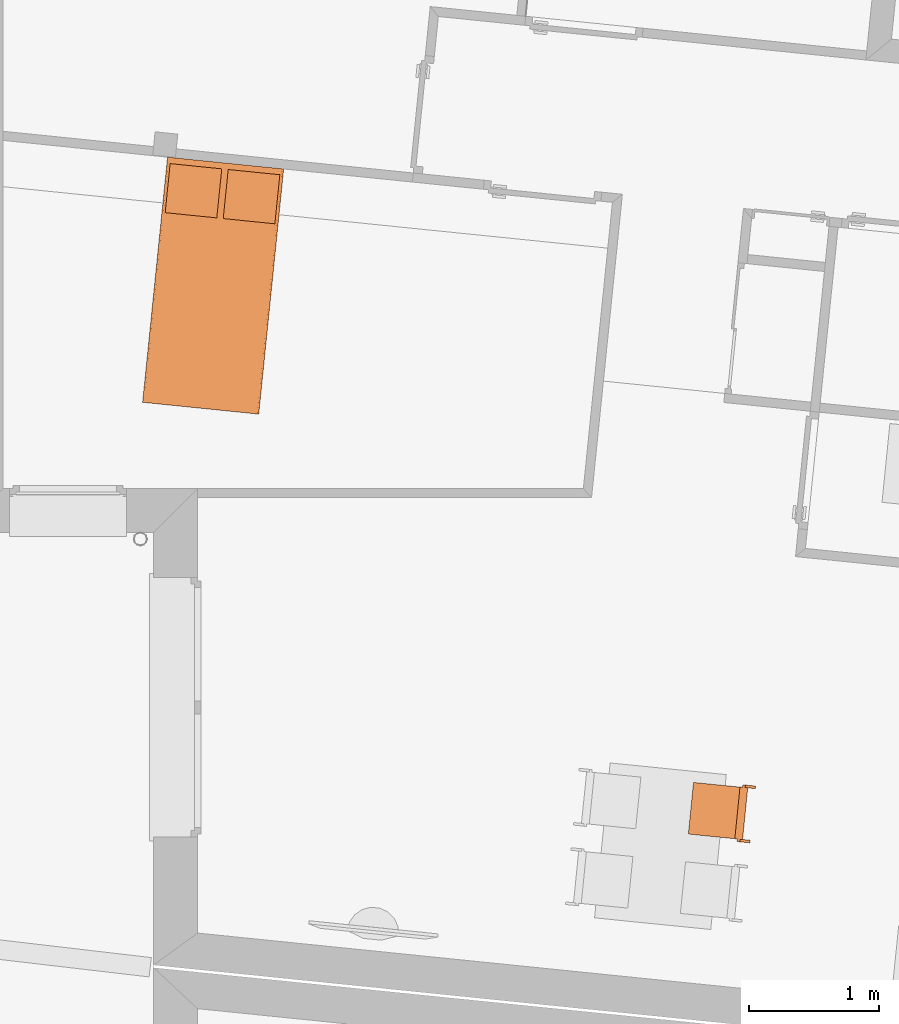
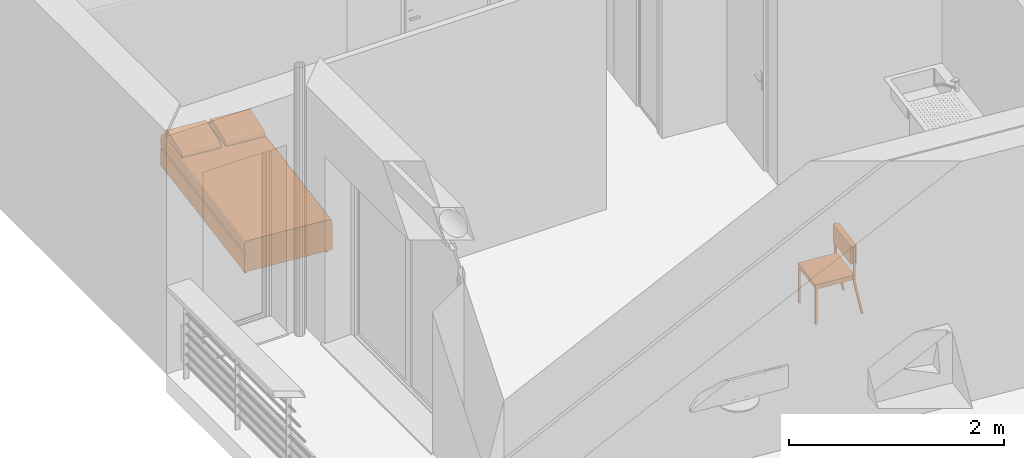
# One storey, part 153 of 164: 2 proxies.
"""IFC2X3 building model written with IfcOpenShell, lengths in millimetres."""

from ifc_helpers import new_model, entity, si_unit, converted_unit, derived_unit, money_unit, direction, frame, origin_with_axes, place, context, subcontext, project, spatial, open_shell, faceted_brep, surface_model, source, transform, mapped, type_object, element, save


model = new_model("IFC2X3")

# Units and contexts
model_context = context("Model", 3, precision=0.01, world=origin_with_axes(), true_north=direction((0.0, 1.0)))
body_context = subcontext(model_context, "Body", "Model", "MODEL_VIEW")
ifc_project = project(units=[si_unit("LENGTHUNIT", "METRE", prefix="MILLI"), si_unit("AREAUNIT", "SQUARE_METRE"), si_unit("VOLUMEUNIT", "CUBIC_METRE"), converted_unit("PLANEANGLEUNIT", "DEGREE", entity("IfcPlaneAngleMeasure", 0.0174532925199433), si_unit("PLANEANGLEUNIT", "RADIAN"), dimensions=[0, 0, 0, 0, 0, 0, 0]), money_unit("USD"), converted_unit("TIMEUNIT", "Year", entity("IfcTimeMeasure", 31557600.0), si_unit("TIMEUNIT", "SECOND"), dimensions=[0, 0, 1, 0, 0, 0, 0]), si_unit("MASSUNIT", "GRAM", prefix="KILO"), si_unit("THERMODYNAMICTEMPERATUREUNIT", "DEGREE_CELSIUS"), si_unit("LUMINOUSINTENSITYUNIT", "LUMEN"), si_unit("ENERGYUNIT", "JOULE", prefix="MEGA"), derived_unit("THERMALCONDUCTANCEUNIT", [(si_unit("POWERUNIT", "WATT"), 1), (si_unit("LENGTHUNIT", "METRE"), -1), (si_unit("THERMODYNAMICTEMPERATUREUNIT", "KELVIN"), -1)]), derived_unit("SPECIFICHEATCAPACITYUNIT", [(si_unit("ENERGYUNIT", "JOULE"), 1), (si_unit("MASSUNIT", "GRAM", prefix="KILO"), -1), (si_unit("THERMODYNAMICTEMPERATUREUNIT", "KELVIN"), -1)]), derived_unit("MASSDENSITYUNIT", [(si_unit("MASSUNIT", "GRAM", prefix="KILO"), 1), (si_unit("VOLUMEUNIT", "CUBIC_METRE"), -1)])], contexts=[model_context])

# Site, building, storey
site_placement = place(None, origin_with_axes())
site = spatial("IfcSite", under=ifc_project, at=site_placement, Name="Site", CompositionType="ELEMENT")
building_placement = place(site_placement, origin_with_axes())
building = spatial("IfcBuilding", under=site, at=building_placement, Name="Bâtiment", CompositionType="ELEMENT")
storey_placement = place(building_placement, frame((0.0, 0.0, 5750.0), z_axis=(0.0, 0.0, 1.0), x_axis=(1.0, 0.0, 0.0)))
storey = spatial("IfcBuildingStorey", under=building, at=storey_placement, Name="Etage1", CompositionType="ELEMENT", Elevation=5750.0)

# Proxies
building_element_proxy_type = type_object("IfcBuildingElementProxyType", PredefinedType="NOTDEFINED")
shared_shape_1 = source(origin_with_axes(), body_context, "Body", "Brep", [
    faceted_brep([(-39.99999978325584, 0.0, 0.0), (-39.99999978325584, 19.99999936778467, 0.0), (-19.99999989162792, 19.99999936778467, 0.0), (-19.99999989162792, 0.0, 0.0), (-39.99999978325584, 0.0, 400.0), (-39.99999978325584, 19.99999936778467, 400.0), (-19.99999989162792, 19.99999936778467, 400.0), (-19.99999989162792, 0.0, 400.0)], [[[0, 1, 2, 3]], [[0, 4, 5, 1]], [[1, 5, 6, 2]], [[2, 6, 7, 3]], [[3, 7, 4, 0]], [[7, 6, 5, 4]]]),
    faceted_brep([(-419.9999977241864, 0.0, 0.0), (-419.9999977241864, 19.99999936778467, 0.0), (-399.9999978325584, 19.99999936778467, 0.0), (-399.9999978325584, 0.0, 0.0), (-419.9999977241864, 0.0, 400.0), (-419.9999977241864, 19.99999936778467, 400.0), (-399.9999978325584, 19.99999936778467, 400.0), (-399.9999978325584, 0.0, 400.0)], [[[0, 1, 2, 3]], [[0, 4, 5, 1]], [[1, 5, 6, 2]], [[2, 6, 7, 3]], [[3, 7, 4, 0]], [[7, 6, 5, 4]]]),
    faceted_brep([(-399.9999978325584, 0.0, 400.0000000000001), (-399.9999978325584, 19.99999936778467, 400.0000000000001), (-39.99999978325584, 19.99999936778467, 400.0000000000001), (-39.99999978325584, 0.0, 400.0000000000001), (-399.9999978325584, 0.0, 420.0000000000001), (-399.9999978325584, 19.99999936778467, 420.0000000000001), (-39.99999978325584, 19.99999936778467, 420.0000000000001), (-39.99999978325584, 0.0, 420.0000000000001)], [[[0, 1, 2, 3]], [[0, 4, 5, 1]], [[1, 5, 6, 2]], [[2, 6, 7, 3]], [[3, 7, 4, 0]], [[7, 6, 5, 4]]]),
    faceted_brep([(-39.99999978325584, 19.99999936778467, 400.0000000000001), (-39.99999978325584, 379.9999879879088, 400.0000000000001), (-19.99999989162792, 379.9999879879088, 400.0000000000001), (-19.99999989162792, 19.99999936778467, 400.0000000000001), (-39.99999978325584, 19.99999936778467, 420.0000000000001), (-39.99999978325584, 379.9999879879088, 420.0000000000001), (-19.99999989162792, 379.9999879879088, 420.0000000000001), (-19.99999989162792, 19.99999936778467, 420.0000000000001)], [[[0, 1, 2, 3]], [[0, 4, 5, 1]], [[1, 5, 6, 2]], [[2, 6, 7, 3]], [[3, 7, 4, 0]], [[7, 6, 5, 4]]]),
    faceted_brep([(-419.9999977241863, 379.9999879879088, 400.0000000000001), (-419.9999977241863, 399.9999873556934, 400.0000000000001), (-19.99999989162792, 399.9999873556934, 400.0000000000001), (-19.99999989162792, 379.9999879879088, 400.0000000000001), (-419.9999977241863, 379.9999879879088, 420.0000000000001), (-419.9999977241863, 399.9999873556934, 420.0000000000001), (-19.99999989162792, 399.9999873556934, 420.0000000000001), (-19.99999989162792, 379.9999879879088, 420.0000000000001)], [[[0, 1, 2, 3]], [[0, 4, 5, 1]], [[1, 5, 6, 2]], [[2, 6, 7, 3]], [[3, 7, 4, 0]], [[7, 6, 5, 4]]]),
    faceted_brep([(-419.9999977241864, 19.99999936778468, 400.0000000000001), (-419.9999977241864, 379.9999879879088, 400.0000000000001), (-399.9999978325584, 379.9999879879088, 400.0000000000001), (-399.9999978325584, 19.99999936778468, 400.0000000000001), (-419.9999977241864, 19.99999936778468, 420.0000000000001), (-419.9999977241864, 379.9999879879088, 420.0000000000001), (-399.9999978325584, 379.9999879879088, 420.0000000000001), (-399.9999978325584, 19.99999936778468, 420.0000000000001)], [[[0, 1, 2, 3]], [[0, 4, 5, 1]], [[1, 5, 6, 2]], [[2, 6, 7, 3]], [[3, 7, 4, 0]], [[7, 6, 5, 4]]]),
    faceted_brep([(-419.9999977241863, 0.0, 400.0), (-419.9999977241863, 399.9999873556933, 400.0), (-19.99999989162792, 399.9999873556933, 400.0), (-19.99999989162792, 0.0, 400.0), (-419.9999977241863, 0.0, 450.0), (-419.9999977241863, 399.9999873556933, 450.0), (-19.99999989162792, 399.9999873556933, 450.0), (-19.99999989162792, 0.0, 450.0)], [[[0, 1, 2, 3]], [[0, 4, 5, 1]], [[1, 5, 6, 2]], [[2, 6, 7, 3]], [[3, 7, 4, 0]], [[7, 6, 5, 4]]]),
    faceted_brep([(-19.99999989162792, 379.9999879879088, 380.0), (-19.99999989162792, 399.9999873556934, 380.0), (0.0, 399.9999873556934, 380.0), (0.0, 379.9999879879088, 380.0), (-19.99999989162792, 379.9999879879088, 780.0), (-19.99999989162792, 399.9999873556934, 780.0), (0.0, 399.9999873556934, 780.0), (0.0, 379.9999879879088, 780.0)], [[[0, 1, 2, 3]], [[0, 4, 5, 1]], [[1, 5, 6, 2]], [[2, 6, 7, 3]], [[3, 7, 4, 0]], [[7, 6, 5, 4]]]),
    faceted_brep([(-439.9999976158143, 379.9999879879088, 380.0), (-439.9999976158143, 399.9999873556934, 380.0), (-419.9999977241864, 399.9999873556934, 380.0), (-419.9999977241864, 379.9999879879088, 380.0), (-439.9999976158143, 379.9999879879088, 780.0), (-439.9999976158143, 399.9999873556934, 780.0), (-419.9999977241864, 399.9999873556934, 780.0), (-419.9999977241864, 379.9999879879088, 780.0)], [[[0, 1, 2, 3]], [[0, 4, 5, 1]], [[1, 5, 6, 2]], [[2, 6, 7, 3]], [[3, 7, 4, 0]], [[7, 6, 5, 4]]]),
    faceted_brep([(-419.9999977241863, 359.999988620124, 580.0000000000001), (-419.9999977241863, 419.9999867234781, 580.0000000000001), (-19.99999989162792, 419.9999867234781, 580.0000000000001), (-19.99999989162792, 359.999988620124, 580.0000000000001), (-419.9999977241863, 359.999988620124, 780.0), (-419.9999977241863, 419.9999867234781, 780.0), (-19.99999989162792, 419.9999867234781, 780.0), (-19.99999989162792, 359.999988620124, 780.0)], [[[0, 1, 2, 3]], [[0, 4, 5, 1]], [[1, 5, 6, 2]], [[2, 6, 7, 3]], [[3, 7, 4, 0]], [[7, 6, 5, 4]]]),
    faceted_brep([(-19.99999989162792, 459.9999854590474, 0.0), (-19.99999989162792, 479.5709559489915, 4.120326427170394), (0.0, 479.5709559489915, 4.120326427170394), (0.0, 459.9999854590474, 0.0), (-19.99999989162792, 379.997669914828, 379.999760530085), (-19.99999989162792, 399.5686404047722, 384.1200869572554), (0.0, 399.5686404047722, 384.1200869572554), (0.0, 379.997669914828, 379.999760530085)], [[[0, 1, 2, 3]], [[0, 4, 5, 1]], [[1, 5, 6, 2]], [[2, 6, 7, 3]], [[3, 7, 4, 0]], [[7, 6, 5, 4]]]),
    faceted_brep([(-439.9999976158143, 459.9999854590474, 0.0), (-439.9999976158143, 479.5709559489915, 4.120326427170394), (-419.9999977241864, 479.5709559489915, 4.120326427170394), (-419.9999977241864, 459.9999854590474, 0.0), (-439.9999976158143, 379.997669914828, 379.999760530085), (-439.9999976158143, 399.5686404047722, 384.1200869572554), (-419.9999977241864, 399.5686404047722, 384.1200869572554), (-419.9999977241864, 379.997669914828, 379.999760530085)], [[[0, 1, 2, 3]], [[0, 4, 5, 1]], [[1, 5, 6, 2]], [[2, 6, 7, 3]], [[3, 7, 4, 0]], [[7, 6, 5, 4]]]),
])
proxy_1_placement = place(storey_placement, frame((2222255.696852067, -619851.3132686, 0.0), z_axis=(0.0, 0.0, 1.0), x_axis=(-0.1000048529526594, -0.9949869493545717, 0.0)))
element("IfcBuildingElementProxy", 1, at=proxy_1_placement, inside=storey, type_object=building_element_proxy_type, Name="Obj.-027", context=body_context, shape_type="MappedRepresentation", body=[
    mapped(shared_shape_1, transform((0.0, 0.0, 0.0))),
])
shared_shape_2 = source(origin_with_axes(), body_context, "Body", "SurfaceModel", [
    faceted_brep([(-400.0, -95.0, 0.0), (-425.0000000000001, -95.0, 0.0), (-425.0000000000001, -47.5, 0.0), (-400.0, -47.5, 0.0), (-400.0, -95.0, 50.0), (-425.0000000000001, -95.0, 50.0), (-425.0000000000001, -47.5, 50.0), (-400.0, -47.5, 50.0)], [[[0, 1, 2, 3]], [[1, 0, 4, 5]], [[2, 1, 5, 6]], [[3, 2, 6, 7]], [[0, 3, 7, 4]], [[5, 4, 7, 6]]]),
    faceted_brep([(-400.0, -1852.5, 0.0), (-425.0000000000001, -1852.5, 0.0), (-425.0000000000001, -1805.0, 0.0), (-400.0, -1805.0, 0.0), (-400.0, -1852.5, 50.0), (-425.0000000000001, -1852.5, 50.0), (-425.0000000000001, -1805.0, 50.0), (-400.0, -1805.0, 50.0)], [[[0, 1, 2, 3]], [[1, 0, 4, 5]], [[2, 1, 5, 6]], [[3, 2, 6, 7]], [[0, 3, 7, 4]], [[5, 4, 7, 6]]]),
    faceted_brep([(425.0000000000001, -1852.5, 0.0), (400.0, -1852.5, 0.0), (400.0, -1805.0, 0.0), (425.0000000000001, -1805.0, 0.0), (425.0000000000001, -1852.5, 50.0), (400.0, -1852.5, 50.0), (400.0, -1805.0, 50.0), (425.0000000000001, -1805.0, 50.0)], [[[0, 1, 2, 3]], [[1, 0, 4, 5]], [[2, 1, 5, 6]], [[3, 2, 6, 7]], [[0, 3, 7, 4]], [[5, 4, 7, 6]]]),
    faceted_brep([(425.0000000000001, -94.99999999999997, 0.0), (400.0, -94.99999999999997, 0.0), (400.0, -47.49999999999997, 0.0), (425.0000000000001, -47.49999999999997, 0.0), (425.0000000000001, -94.99999999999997, 50.0), (400.0, -94.99999999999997, 50.0), (400.0, -47.49999999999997, 50.0), (425.0000000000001, -47.49999999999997, 50.0)], [[[0, 1, 2, 3]], [[1, 0, 4, 5]], [[2, 1, 5, 6]], [[3, 2, 6, 7]], [[0, 3, 7, 4]], [[5, 4, 7, 6]]]),
    faceted_brep([(-450.0, 0.0, 50.0), (450.0, 0.0, 50.0), (450.0, -1900.0, 50.00000000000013), (-450.0, -1900.0, 50.00000000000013), (-450.0, 0.0, 250.0), (450.0, 0.0, 250.0), (450.0, -1900.0, 250.0000000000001), (-450.0, -1900.0, 250.0000000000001)], [[[0, 1, 2, 3]], [[0, 4, 5, 1]], [[1, 5, 6, 2]], [[3, 2, 6, 7]], [[4, 0, 3, 7]], [[5, 4, 7, 6]]]),
    surface_model("IfcShellBasedSurfaceModel", [(425.0000000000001, 0.0, 250.0), (429.3412044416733, 0.0, 250.7596123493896), (429.3412044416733, -1900.0, 250.7596123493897), (425.0000000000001, -1900.0, 250.0000000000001), (-425.0000000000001, 0.0, 250.0), (-429.3412044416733, 0.0, 250.7596123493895), (-433.5505035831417, 0.0, 253.0153689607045), (-437.5, 0.0, 256.698729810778), (-441.0696902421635, 0.0, 261.6977778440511), (-444.1511110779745, 0.0, 267.860619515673), (-446.650635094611, 0.0, 275.0), (-448.4923155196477, 0.0, 282.8989928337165), (-449.6201938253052, 0.0, 291.3175911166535), (-450.0, 0.0, 300.0000000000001), (-450.0000000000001, 0.0, 350.0), (-449.6201938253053, 0.0, 358.6824088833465), (-448.4923155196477, 0.0, 367.1010071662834), (-446.650635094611, 0.0, 375.0), (-444.1511110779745, 0.0, 382.139380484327), (-441.0696902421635, 0.0, 388.3022221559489), (-437.5000000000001, 0.0, 393.301270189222), (-433.5505035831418, 0.0, 396.9846310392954), (-429.3412044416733, 0.0, 399.2403876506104), (-425.0000000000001, 0.0, 400.0), (425.0, 0.0, 400.0000000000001), (429.3412044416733, 0.0, 399.2403876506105), (433.5505035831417, 0.0, 396.9846310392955), (437.5, 0.0, 393.301270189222), (441.0696902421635, 0.0, 388.3022221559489), (444.1511110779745, 0.0, 382.139380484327), (446.6506350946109, 0.0, 375.0000000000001), (448.4923155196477, 0.0, 367.1010071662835), (449.6201938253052, 0.0, 358.6824088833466), (450.0, 0.0, 350.0000000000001), (450.0, 0.0, 300.0000000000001), (449.6201938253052, 0.0, 291.3175911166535), (448.4923155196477, 0.0, 282.8989928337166), (446.650635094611, 0.0, 275.0), (444.1511110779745, 0.0, 267.8606195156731), (441.0696902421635, 0.0, 261.6977778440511), (437.5000000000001, 0.0, 256.698729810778), (433.5505035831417, 0.0, 253.0153689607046), (433.5505035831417, -1900.0, 253.0153689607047), (-425.0000000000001, -1900.0, 250.0000000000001), (437.5000000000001, -1900.0, 256.6987298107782), (441.0696902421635, -1900.0, 261.6977778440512), (444.1511110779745, -1900.0, 267.8606195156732), (446.650635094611, -1900.0, 275.0000000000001), (448.4923155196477, -1900.0, 282.8989928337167), (449.6201938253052, -1900.0, 291.3175911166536), (450.0, -1900.0, 300.0000000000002), (450.0, -1900.0, 350.0000000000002), (449.6201938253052, -1900.0, 358.6824088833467), (448.4923155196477, -1900.0, 367.1010071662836), (446.6506350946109, -1900.0, 375.0000000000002), (444.1511110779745, -1900.0, 382.1393804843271), (441.0696902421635, -1900.0, 388.302222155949), (437.5, -1900.0, 393.3012701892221), (433.5505035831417, -1900.0, 396.9846310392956), (429.3412044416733, -1900.0, 399.2403876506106), (425.0, -1900.0, 400.0000000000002), (-425.0000000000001, -1900.0, 400.0000000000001), (-429.3412044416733, -1900.0, 399.2403876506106), (-433.5505035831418, -1900.0, 396.9846310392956), (-437.5000000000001, -1900.0, 393.3012701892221), (-441.0696902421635, -1900.0, 388.302222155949), (-444.1511110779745, -1900.0, 382.1393804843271), (-446.650635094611, -1900.0, 375.0000000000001), (-448.4923155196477, -1900.0, 367.1010071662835), (-449.6201938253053, -1900.0, 358.6824088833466), (-450.0000000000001, -1900.0, 350.0000000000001), (-450.0, -1900.0, 300.0000000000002), (-449.6201938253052, -1900.0, 291.3175911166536), (-448.4923155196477, -1900.0, 282.8989928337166), (-446.650635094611, -1900.0, 275.0000000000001), (-444.1511110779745, -1900.0, 267.8606195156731), (-441.0696902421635, -1900.0, 261.6977778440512), (-437.5, -1900.0, 256.6987298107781), (-433.5505035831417, -1900.0, 253.0153689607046), (-429.3412044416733, -1900.0, 250.7596123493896)], [open_shell([[[0, 1, 2, 3]], [[4, 5, 6, 7, 8, 9, 10, 11, 12, 13, 14, 15, 16, 17, 18, 19, 20, 21, 22, 23, 24, 25, 26, 27, 28, 29, 30, 31, 32, 33, 34, 35, 36, 37, 38, 39, 40, 41, 1, 0]], [[1, 41, 42, 2]], [[43, 3, 2, 42, 44, 45, 46, 47, 48, 49, 50, 51, 52, 53, 54, 55, 56, 57, 58, 59, 60, 61, 62, 63, 64, 65, 66, 67, 68, 69, 70, 71, 72, 73, 74, 75, 76, 77, 78, 79]], [[5, 4, 43, 79]], [[6, 5, 79, 78]], [[7, 6, 78, 77]], [[8, 7, 77, 76]], [[9, 8, 76, 75]], [[10, 9, 75, 74]], [[11, 10, 74, 73]], [[12, 11, 73, 72]], [[13, 12, 72, 71]], [[14, 13, 71, 70]], [[15, 14, 70, 69]], [[16, 15, 69, 68]], [[17, 16, 68, 67]], [[18, 17, 67, 66]], [[19, 18, 66, 65]], [[20, 19, 65, 64]], [[21, 20, 64, 63]], [[22, 21, 63, 62]], [[23, 22, 62, 61]], [[24, 23, 61, 60]], [[25, 24, 60, 59]], [[26, 25, 59, 58]], [[27, 26, 58, 57]], [[28, 27, 57, 56]], [[29, 28, 56, 55]], [[30, 29, 55, 54]], [[31, 30, 54, 53]], [[32, 31, 53, 52]], [[33, 32, 52, 51]], [[34, 33, 51, 50]], [[35, 34, 50, 49]], [[36, 35, 49, 48]], [[37, 36, 48, 47]], [[38, 37, 47, 46]], [[39, 38, 46, 45]], [[40, 39, 45, 44]], [[41, 40, 44, 42]]])]),
    faceted_brep([(24.99999999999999, -47.49999999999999, 400.0), (24.99999999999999, -47.49999999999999, 443.4), (425.0, -47.50000000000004, 443.4000000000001), (425.0, -47.50000000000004, 400.0000000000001), (24.99999999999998, -427.5, 400.0), (24.99999999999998, -427.6960812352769, 408.695442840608), (24.99999999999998, -426.4675711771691, 417.2966661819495), (24.99999999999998, -423.8511300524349, 425.5469991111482), (24.99999999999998, -419.9248356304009, 433.2002417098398), (24.99999999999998, -414.8058532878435, 440.0280119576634), (24.99999999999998, -408.6469396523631, 445.826560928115), (24.99999999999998, -401.6318841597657, 450.4228529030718), (24.99999999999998, -393.9700245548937, 453.6797289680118), (24.99999999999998, -385.89, 455.5), (24.99999999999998, -100.89, 493.0000000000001), (24.99999999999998, -92.85488048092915, 493.3370808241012), (24.99999999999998, -84.88093291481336, 492.2422169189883), (24.99999999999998, -77.19681007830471, 489.7468034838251), (24.99999999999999, -70.02285403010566, 485.922396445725), (24.99999999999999, -63.56477780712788, 480.878660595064), (24.99999999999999, -58.00776660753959, 474.7602249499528), (24.99999999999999, -53.51116760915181, 467.7425355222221), (24.99999999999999, -50.20392069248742, 460.0268244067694), (24.99999999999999, -48.18086109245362, 451.834339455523), (425.0, -48.18086109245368, 451.8343394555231), (425.0, -50.20392069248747, 460.0268244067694), (425.0, -53.51116760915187, 467.7425355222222), (425.0, -58.00776660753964, 474.7602249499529), (425.0, -63.56477780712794, 480.878660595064), (425.0, -70.02285403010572, 485.922396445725), (425.0, -77.19681007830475, 489.7468034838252), (425.0, -84.88093291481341, 492.2422169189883), (425.0, -92.85488048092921, 493.3370808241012), (425.0, -100.8900000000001, 493.0000000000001), (425.0, -385.89, 455.5000000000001), (425.0, -393.9700245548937, 453.6797289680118), (425.0, -401.6318841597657, 450.4228529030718), (425.0, -408.6469396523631, 445.826560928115), (425.0, -414.8058532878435, 440.0280119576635), (425.0, -419.924835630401, 433.2002417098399), (425.0, -423.8511300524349, 425.5469991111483), (425.0, -426.4675711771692, 417.2966661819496), (425.0, -427.6960812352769, 408.6954428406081), (425.0, -427.5, 400.0000000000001)], [[[0, 1, 2, 3]], [[0, 4, 5, 6, 7, 8, 9, 10, 11, 12, 13, 14, 15, 16, 17, 18, 19, 20, 21, 22, 23, 1]], [[1, 23, 24, 2]], [[3, 2, 24, 25, 26, 27, 28, 29, 30, 31, 32, 33, 34, 35, 36, 37, 38, 39, 40, 41, 42, 43]], [[4, 0, 3, 43]], [[5, 4, 43, 42]], [[6, 5, 42, 41]], [[7, 6, 41, 40]], [[8, 7, 40, 39]], [[9, 8, 39, 38]], [[10, 9, 38, 37]], [[11, 10, 37, 36]], [[12, 11, 36, 35]], [[13, 12, 35, 34]], [[14, 13, 34, 33]], [[15, 14, 33, 32]], [[16, 15, 32, 31]], [[17, 16, 31, 30]], [[18, 17, 30, 29]], [[19, 18, 29, 28]], [[20, 19, 28, 27]], [[21, 20, 27, 26]], [[22, 21, 26, 25]], [[23, 22, 25, 24]]]),
    faceted_brep([(-425.0000000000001, -47.49999999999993, 399.9999999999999), (-425.0000000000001, -47.49999999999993, 443.4), (-25.00000000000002, -47.49999999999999, 443.4), (-25.00000000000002, -47.49999999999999, 400.0), (-425.0000000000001, -427.4999999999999, 399.9999999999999), (-425.0000000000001, -427.6960812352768, 408.6954428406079), (-425.0000000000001, -426.4675711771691, 417.2966661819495), (-425.0000000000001, -423.8511300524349, 425.5469991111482), (-425.0000000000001, -419.9248356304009, 433.2002417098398), (-425.0000000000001, -414.8058532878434, 440.0280119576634), (-425.0000000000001, -408.646939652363, 445.8265609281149), (-425.0000000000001, -401.6318841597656, 450.4228529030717), (-425.0000000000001, -393.9700245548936, 453.6797289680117), (-425.0000000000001, -385.8899999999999, 455.4999999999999), (-425.0000000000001, -100.89, 493.0), (-425.0000000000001, -92.8548804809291, 493.3370808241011), (-425.0000000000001, -84.8809329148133, 492.2422169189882), (-425.0000000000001, -77.19681007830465, 489.7468034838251), (-425.0000000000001, -70.0228540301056, 485.9223964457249), (-425.0000000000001, -63.56477780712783, 480.8786605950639), (-425.0000000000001, -58.00776660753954, 474.7602249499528), (-425.0000000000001, -53.51116760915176, 467.7425355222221), (-425.0000000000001, -50.20392069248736, 460.0268244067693), (-425.0000000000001, -48.18086109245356, 451.834339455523), (-25.00000000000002, -48.18086109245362, 451.834339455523), (-25.00000000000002, -50.20392069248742, 460.0268244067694), (-25.00000000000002, -53.51116760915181, 467.7425355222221), (-25.00000000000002, -58.00776660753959, 474.7602249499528), (-25.00000000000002, -63.56477780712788, 480.878660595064), (-25.00000000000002, -70.02285403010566, 485.922396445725), (-25.00000000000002, -77.19681007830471, 489.7468034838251), (-25.00000000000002, -84.88093291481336, 492.2422169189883), (-25.00000000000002, -92.85488048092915, 493.3370808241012), (-25.00000000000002, -100.89, 493.0000000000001), (-25.00000000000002, -385.8899999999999, 455.5), (-25.00000000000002, -393.9700245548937, 453.6797289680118), (-25.00000000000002, -401.6318841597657, 450.4228529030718), (-25.00000000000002, -408.6469396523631, 445.826560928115), (-25.00000000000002, -414.8058532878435, 440.0280119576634), (-25.00000000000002, -419.9248356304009, 433.2002417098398), (-25.00000000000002, -423.8511300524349, 425.5469991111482), (-25.00000000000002, -426.4675711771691, 417.2966661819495), (-25.00000000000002, -427.6960812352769, 408.695442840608), (-25.00000000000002, -427.4999999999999, 400.0)], [[[0, 1, 2, 3]], [[0, 4, 5, 6, 7, 8, 9, 10, 11, 12, 13, 14, 15, 16, 17, 18, 19, 20, 21, 22, 23, 1]], [[1, 23, 24, 2]], [[3, 2, 24, 25, 26, 27, 28, 29, 30, 31, 32, 33, 34, 35, 36, 37, 38, 39, 40, 41, 42, 43]], [[4, 0, 3, 43]], [[5, 4, 43, 42]], [[6, 5, 42, 41]], [[7, 6, 41, 40]], [[8, 7, 40, 39]], [[9, 8, 39, 38]], [[10, 9, 38, 37]], [[11, 10, 37, 36]], [[12, 11, 36, 35]], [[13, 12, 35, 34]], [[14, 13, 34, 33]], [[15, 14, 33, 32]], [[16, 15, 32, 31]], [[17, 16, 31, 30]], [[18, 17, 30, 29]], [[19, 18, 29, 28]], [[20, 19, 28, 27]], [[21, 20, 27, 26]], [[22, 21, 26, 25]], [[23, 22, 25, 24]]]),
])
proxy_2_placement = place(storey_placement, frame((2218689.980484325, -614657.8738620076, 0.0), z_axis=(0.0, 0.0, 1.0), x_axis=(0.9948688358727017, -0.1011731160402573, 0.0)))
element("IfcBuildingElementProxy", 2, at=proxy_2_placement, inside=storey, type_object=building_element_proxy_type, Name="Obj.-003", context=body_context, shape_type="MappedRepresentation", body=[
    mapped(shared_shape_2, transform((0.0, 0.0, 0.0))),
])

save(model, "model.ifc")
